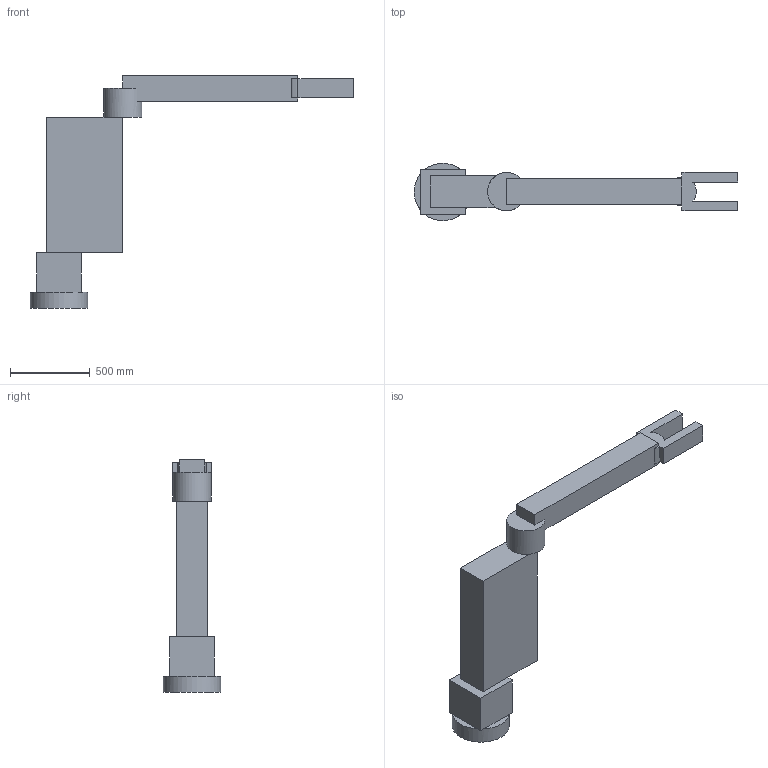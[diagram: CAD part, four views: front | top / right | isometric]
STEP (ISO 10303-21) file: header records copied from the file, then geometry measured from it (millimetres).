
FILE_DESCRIPTION(/* description */ (''),/* implementation_level */ '2;1');
FILE_NAME(/* name */ 'arm_heavy.step',/* time_stamp */ '2026-11-14T21:13:07+01:00',/* author */ ('malgo'),/* organization */ (''),/* preprocessor_version */ 'ST-DEVELOPER v20.1',/* originating_system */ 'Autodesk Inventor 2026',/* authorisation */ '');
FILE_SCHEMA (('AUTOMOTIVE_DESIGN { 1 0 10303 214 3 1 1 }'));
Length unit declared in the file: metre
Products named in the file (1): arm_heavy
Bounding box: 2030 x 360 x 1460 mm (x, y, z)
Volume: 152567714.1 mm3; surface area: 2998093.4 mm2
Topology: 1 solids, 1 shells, 44 faces, 114 edges, 72 vertices
Faces by surface type: plane 39, cylinder 5
Full cylindrical faces by diameter (mm): 240 x1, 360 x1
Entity records: 1361 total; most frequent: CARTESIAN_POINT 231, ORIENTED_EDGE 228, DIRECTION 226, EDGE_CURVE 114, LINE 92, VECTOR 92, VERTEX_POINT 72, AXIS2_PLACEMENT_3D 67
